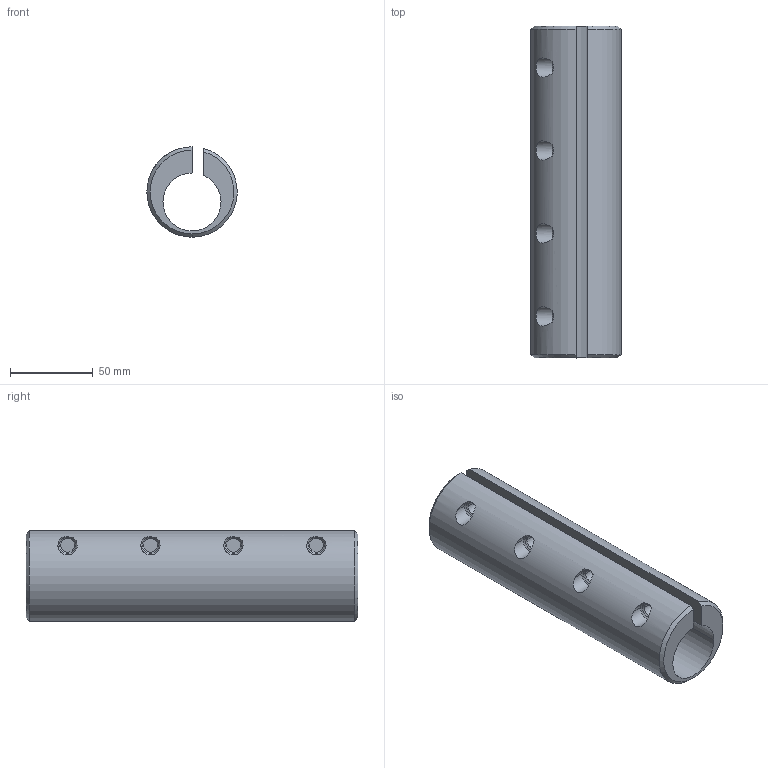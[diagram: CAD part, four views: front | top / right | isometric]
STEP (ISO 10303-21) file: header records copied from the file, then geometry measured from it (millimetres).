
FILE_DESCRIPTION(/* description */ ('(C) Elphel, Inc. 2012. Licensed under CERN OHL v.1.1 or later, see http://ohwr.org/cernohl'),/* implementation_level */ '2;1');
FILE_NAME(/* name */ '0353-25-01',/* time_stamp */ '2012-06-08T16:58:08-06:00',/* author */ (''),/* organization */ ('Elphel, Inc'),/* preprocessor_version */ 'ST-DEVELOPER v12',/* originating_system */ 'VariCAD 2012-1.04; kernel version (20100102)',/* authorisation */ '');
FILE_SCHEMA (('AUTOMOTIVE_DESIGN'));
Length unit declared in the file: millimetre
Products named in the file (1): Part
Bounding box: 54.47 x 200 x 54.5 mm (x, y, z)
Volume: 245648.2 mm3; surface area: 66848.4 mm2
Topology: 5 solids, 5 shells, 69 faces, 155 edges, 92 vertices
Faces by surface type: cylinder 41, cone 20, plane 8
Entity records: 2656 total; most frequent: CARTESIAN_POINT 516, DIRECTION 361, ORIENTED_EDGE 310, EDGE_CURVE 155, AXIS2_PLACEMENT_3D 149, VERTEX_POINT 92, EDGE_LOOP 81, PRESENTATION_STYLE_ASSIGNMENT 74
